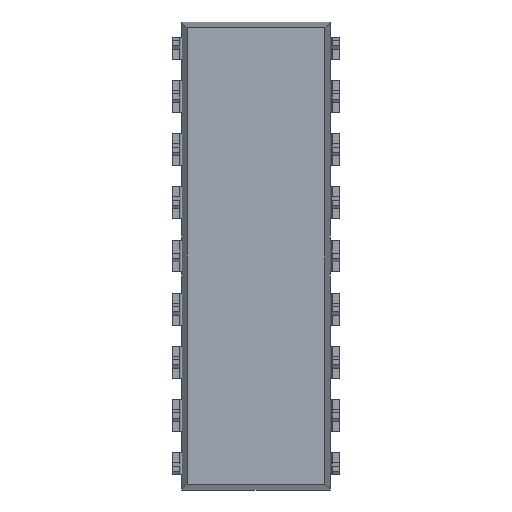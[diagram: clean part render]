
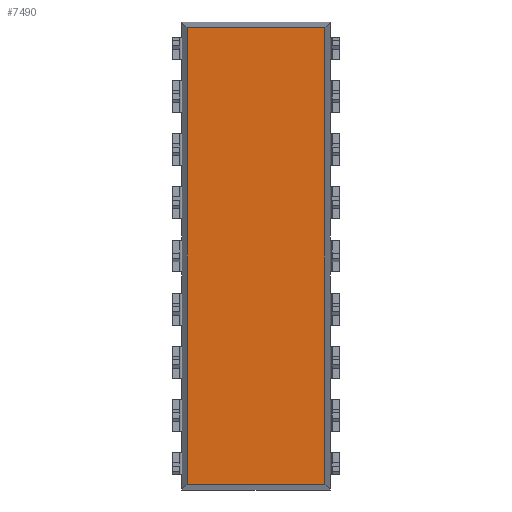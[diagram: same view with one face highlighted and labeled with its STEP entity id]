
A CAD part, front view. The second image highlights one B-rep face of the part: STEP entity #7490.
In plain terms, the highlighted planar face has unit normal (0, -1, 0).
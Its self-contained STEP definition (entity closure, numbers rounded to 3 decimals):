
#666 = CARTESIAN_POINT ( 'NONE',  ( 3.291, 0.381, -10.911 ) ) ;
#672 = CARTESIAN_POINT ( 'NONE',  ( -3.291, 0.381, -10.911 ) ) ;
#1269 = FACE_OUTER_BOUND ( 'NONE', #4855, .T. ) ;
#2203 = EDGE_CURVE ( 'NONE', #6798, #6047, #4929, .T. ) ;
#2207 = EDGE_CURVE ( 'NONE', #6041, #6797, #4937, .T. ) ;
#2271 = EDGE_CURVE ( 'NONE', #6047, #6041, #5061, .T. ) ;
#2272 = EDGE_CURVE ( 'NONE', #6797, #6798, #5064, .T. ) ;
#2935 = CARTESIAN_POINT ( 'NONE',  ( 3.291, 0.381, 10.911 ) ) ;
#2936 = CARTESIAN_POINT ( 'NONE',  ( -3.291, 0.381, 10.911 ) ) ;
#3179 = PLANE ( 'NONE',  #6480 ) ;
#3198 = CARTESIAN_POINT ( 'NONE',  ( 0., 0.381, 0. ) ) ;
#3199 = DIRECTION ( 'NONE',  ( 0., 1., 0. ) ) ;
#3200 = DIRECTION ( 'NONE',  ( 0., 0., 1. ) ) ;
#4178 = ORIENTED_EDGE ( 'NONE', *, *, #2203, .T. ) ;
#4179 = ORIENTED_EDGE ( 'NONE', *, *, #2271, .T. ) ;
#4180 = ORIENTED_EDGE ( 'NONE', *, *, #2207, .T. ) ;
#4181 = ORIENTED_EDGE ( 'NONE', *, *, #2272, .T. ) ;
#4855 = EDGE_LOOP ( 'NONE', ( #4178, #4179, #4180, #4181 ) ) ;
#4929 = LINE ( 'NONE', #7267, #4934 ) ;
#4934 = VECTOR ( 'NONE', #7282, 1000. ) ;
#4937 = LINE ( 'NONE', #7275, #4942 ) ;
#4942 = VECTOR ( 'NONE', #7408, 1000. ) ;
#5061 = LINE ( 'NONE', #7105, #5065 ) ;
#5064 = LINE ( 'NONE', #7075, #5067 ) ;
#5065 = VECTOR ( 'NONE', #7085, 1000. ) ;
#5067 = VECTOR ( 'NONE', #7057, 1000. ) ;
#6041 = VERTEX_POINT ( 'NONE', #666 ) ;
#6047 = VERTEX_POINT ( 'NONE', #672 ) ;
#6480 = AXIS2_PLACEMENT_3D ( 'NONE', #3198, #3199, #3200 ) ;
#6797 = VERTEX_POINT ( 'NONE', #2935 ) ;
#6798 = VERTEX_POINT ( 'NONE', #2936 ) ;
#7057 = DIRECTION ( 'NONE',  ( -1., 0., 0. ) ) ;
#7075 = CARTESIAN_POINT ( 'NONE',  ( -3.556, 0.381, 10.911 ) ) ;
#7085 = DIRECTION ( 'NONE',  ( 1., 0., 0. ) ) ;
#7105 = CARTESIAN_POINT ( 'NONE',  ( -3.556, 0.381, -10.911 ) ) ;
#7267 = CARTESIAN_POINT ( 'NONE',  ( -3.291, 0.381, 11.176 ) ) ;
#7275 = CARTESIAN_POINT ( 'NONE',  ( 3.291, 0.381, 11.176 ) ) ;
#7282 = DIRECTION ( 'NONE',  ( 0., 0., -1. ) ) ;
#7408 = DIRECTION ( 'NONE',  ( 0., 0., 1. ) ) ;
#7490 = ADVANCED_FACE ( 'NONE', ( #1269 ), #3179, .F. ) ;
